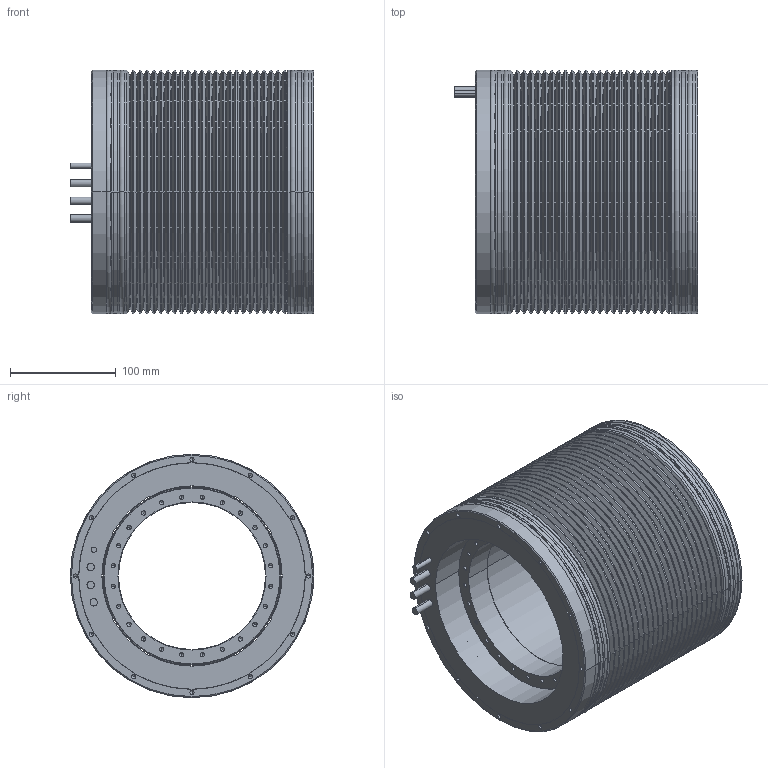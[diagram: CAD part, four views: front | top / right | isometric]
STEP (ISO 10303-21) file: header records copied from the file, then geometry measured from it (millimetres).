
FILE_DESCRIPTION((''),'2;1');
FILE_NAME('TK230-150','2017-10-26T',('stefanos'),(''),'CREO PARAMETRIC BY PTC INC, 2015480','CREO PARAMETRIC BY PTC INC, 2015480','');
FILE_SCHEMA(('CONFIG_CONTROL_DESIGN'));
Length unit declared in the file: millimetre
Products named in the file (1): TK230-150
Bounding box: 230 x 230 x 230 mm (x, y, z)
Volume: 4786930.4 mm3; surface area: 1048815.3 mm2
Topology: 9 solids, 9 shells, 589 faces, 1298 edges, 686 vertices
Faces by surface type: cylinder 284, cone 236, plane 37, torus 16, revolution 16
Entity records: 16636 total; most frequent: CARTESIAN_POINT 3941, DIRECTION 2934, ORIENTED_EDGE 2356, AXIS2_PLACEMENT_3D 1199, EDGE_CURVE 1178, VERTEX_POINT 686, EDGE_LOOP 686, CIRCLE 626
